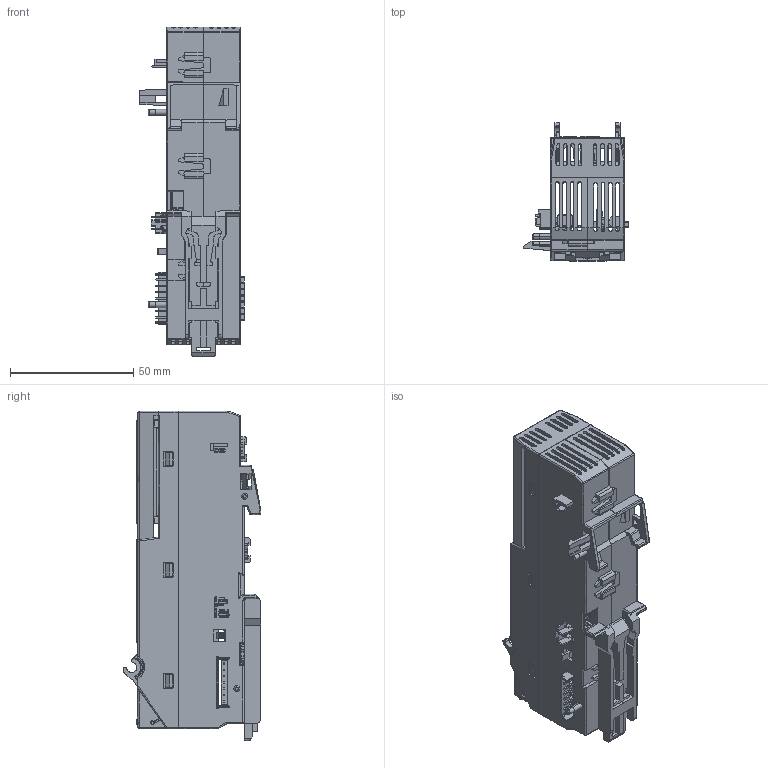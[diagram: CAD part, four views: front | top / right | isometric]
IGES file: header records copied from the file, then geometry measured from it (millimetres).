
Start section:  PTC IGES file: 2036218
Global section: file name: 2036218; native system: Creo Parametric by PTC Inc.; preprocessor: 2019292; author: t.hampe; organization: Unknown; date: 20240306.150804; units: millimetre
Bounding box: 42.35 x 55.97 x 133.82 mm (x, y, z)
Surface area: 62146.3 mm2 (no closed solid volume)
Topology: 0 solids, 0 shells, 5331 faces, 29988 edges, 29974 vertices
Faces by surface type: bspline 3908, revolution 1397, extrusion 26
